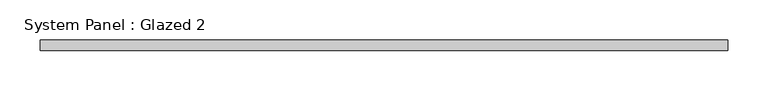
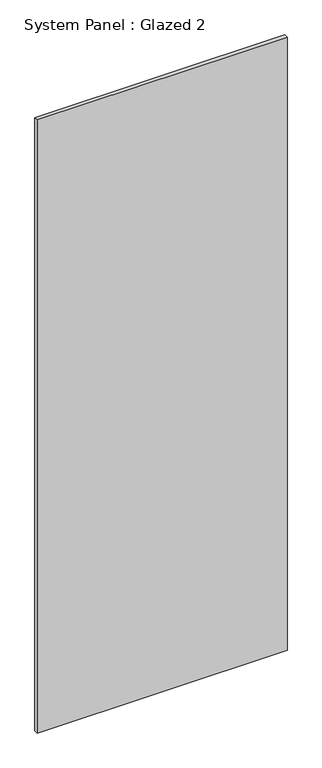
"""IFC4 building model written with IfcOpenShell, lengths in millimetres: plate geometry, System Panel : Glazed 2."""

from ifc_helpers import new_model, si_unit, origin, origin_with_axes, place, context, project, spatial, polyline, outline, extrude, source, transform, mapped, element, save


def system_panel_glazed_2_6d841b2c(model_context):
    return source(origin(), model_context, "Body", "SweptSolid", [
        extrude(outline(polyline([(425.0, -6.35), (-425.0, -6.35), (-425.0, 6.35), (425.0, 6.35), (425.0, -6.35)])), origin_with_axes(), (0.0, 0.0, 1.0), 2204.2166549),
    ])


if __name__ == "__main__":
    model = new_model("IFC4")
    model_context = context("Model", 3, world=origin())
    ifc_project = project(units=[si_unit("LENGTHUNIT", "METRE", prefix="MILLI")], contexts=[model_context])
    site = spatial("IfcSite", under=ifc_project)
    building = spatial("IfcBuilding", under=site)
    placement = place(None, origin())
    system_panel_glazed_2_shape = system_panel_glazed_2_6d841b2c(model_context)
    element("IfcPlate", 1, ObjectType="System Panel : Glazed 2", at=placement, inside=building, context=model_context, shape_type="MappedRepresentation", body=[
        mapped(system_panel_glazed_2_shape, transform((0.0, 0.0, 0.0), x_axis=(1.0, 0.0, 0.0), y_axis=(0.0, 1.0, 0.0), z_axis=(0.0, 0.0, 1.0))),
    ])
    save(model, "model.ifc")
